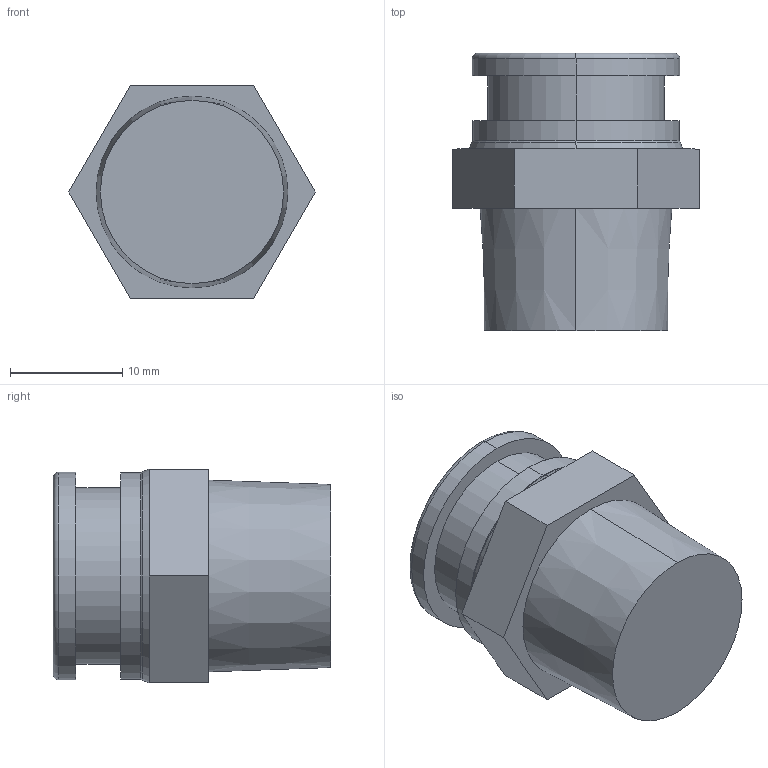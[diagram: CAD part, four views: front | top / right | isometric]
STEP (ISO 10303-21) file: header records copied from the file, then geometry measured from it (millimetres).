
FILE_DESCRIPTION (( 'STEP AP214' ), '1' );
FILE_NAME ('KQB2H12-03S.step.step', '2022-08-16T06:50:26', ( '' ), ( '' ), 'SwSTEP 2.0', 'SolidWorks 2022', '' );
FILE_SCHEMA (( 'AUTOMOTIVE_DESIGN' ));
Length unit declared in the file: millimetre
Products named in the file (2): KQB2H12-03S.step_KQB2 Male Connect_12-03; KQB2H12-03S.step
Assembly tree (1 placements, depth 2):
  KQB2H12-03S.step
    KQB2H12-03S.step_KQB2 Male Connect_12-03
Bounding box: 21.94 x 24.7 x 19 mm (x, y, z)
Volume: 3864.1 mm3; surface area: 2818.4 mm2
Topology: 1 solids, 1 shells, 34 faces, 70 edges, 42 vertices
Faces by surface type: plane 18, cylinder 8, torus 4, cone 4
Entity records: 962 total; most frequent: DIRECTION 180, CARTESIAN_POINT 150, ORIENTED_EDGE 140, AXIS2_PLACEMENT_3D 72, EDGE_CURVE 70, VERTEX_POINT 42, EDGE_LOOP 38, LINE 36
